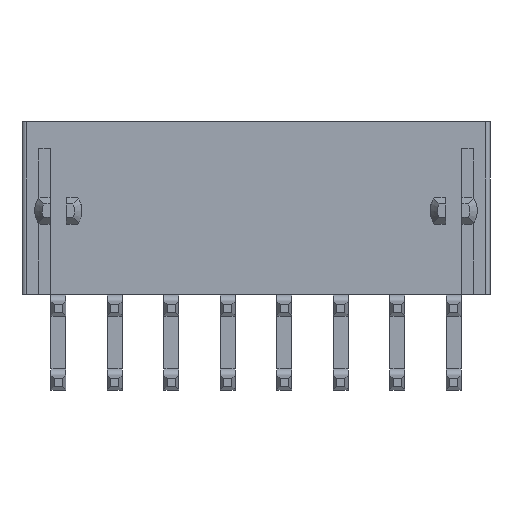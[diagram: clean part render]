
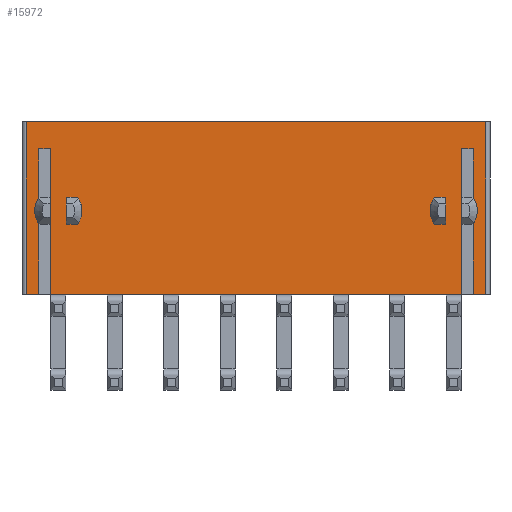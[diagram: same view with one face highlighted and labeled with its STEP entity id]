
A CAD part, front view. The second image highlights one B-rep face of the part: STEP entity #15972.
In plain terms, the highlighted planar face has unit normal (0, -1, 0).
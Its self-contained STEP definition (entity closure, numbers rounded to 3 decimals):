
#429=DIRECTION('',(-1.,0.,0.));
#430=VECTOR('',#429,0.95);
#431=CARTESIAN_POINT('',(37.969,3.966,-15.481));
#432=LINE('',#431,#430);
#461=DIRECTION('',(1.,0.,0.));
#462=VECTOR('',#461,0.95);
#463=CARTESIAN_POINT('',(3.769,3.966,-15.481));
#464=LINE('',#463,#462);
#2029=CARTESIAN_POINT('',(35.569,3.966,-9.281));
#2030=DIRECTION('',(0.,-1.,0.));
#2031=DIRECTION('',(-0.745,0.,0.667));
#2032=AXIS2_PLACEMENT_3D('',#2029,#2030,#2031);
#2034=DIRECTION('',(-1.,0.,0.));
#2035=VECTOR('',#2034,0.518);
#2036=CARTESIAN_POINT('',(34.969,3.966,-10.281));
#2037=LINE('',#2036,#2035);
#2038=DIRECTION('',(0.,0.,-1.));
#2039=VECTOR('',#2038,2.);
#2040=CARTESIAN_POINT('',(34.969,3.966,-8.281));
#2041=LINE('',#2040,#2039);
#2042=DIRECTION('',(1.,0.,0.));
#2043=VECTOR('',#2042,0.518);
#2044=CARTESIAN_POINT('',(34.451,3.966,-8.281));
#2045=LINE('',#2044,#2043);
#2046=CARTESIAN_POINT('',(6.169,3.966,-9.281));
#2047=DIRECTION('',(0.,-1.,0.));
#2048=DIRECTION('',(0.745,0.,-0.667));
#2049=AXIS2_PLACEMENT_3D('',#2046,#2047,#2048);
#2051=DIRECTION('',(-1.,0.,0.));
#2052=VECTOR('',#2051,0.518);
#2053=CARTESIAN_POINT('',(7.287,3.966,-8.281));
#2054=LINE('',#2053,#2052);
#2055=DIRECTION('',(0.,0.,-1.));
#2056=VECTOR('',#2055,2.);
#2057=CARTESIAN_POINT('',(6.769,3.966,-8.281));
#2058=LINE('',#2057,#2056);
#2059=DIRECTION('',(1.,0.,0.));
#2060=VECTOR('',#2059,0.518);
#2061=CARTESIAN_POINT('',(6.769,3.966,-10.281));
#2062=LINE('',#2061,#2060);
#2063=DIRECTION('',(1.,0.,0.));
#2064=VECTOR('',#2063,34.2);
#2065=CARTESIAN_POINT('',(3.769,3.966,-2.681));
#2066=LINE('',#2065,#2064);
#2067=DIRECTION('',(0.,0.,-1.));
#2068=VECTOR('',#2067,5.816);
#2069=CARTESIAN_POINT('',(37.019,3.966,-9.665));
#2070=LINE('',#2069,#2068);
#2071=CARTESIAN_POINT('',(35.569,3.966,-9.281));
#2072=DIRECTION('',(0.,-1.,0.));
#2073=DIRECTION('',(0.967,0.,-0.256));
#2074=AXIS2_PLACEMENT_3D('',#2071,#2072,#2073);
#2076=DIRECTION('',(0.,0.,-1.));
#2077=VECTOR('',#2076,4.216);
#2078=CARTESIAN_POINT('',(37.019,3.966,-4.681));
#2079=LINE('',#2078,#2077);
#2080=DIRECTION('',(1.,0.,0.));
#2081=VECTOR('',#2080,0.85);
#2082=CARTESIAN_POINT('',(36.169,3.966,-4.681));
#2083=LINE('',#2082,#2081);
#2084=DIRECTION('',(0.,0.,1.));
#2085=VECTOR('',#2084,10.8);
#2086=CARTESIAN_POINT('',(36.169,3.966,-15.481));
#2087=LINE('',#2086,#2085);
#2088=DIRECTION('',(-1.,0.,0.));
#2089=VECTOR('',#2088,30.6);
#2090=CARTESIAN_POINT('',(36.169,3.966,-15.481));
#2091=LINE('',#2090,#2089);
#2092=DIRECTION('',(0.,0.,1.));
#2093=VECTOR('',#2092,10.8);
#2094=CARTESIAN_POINT('',(5.569,3.966,-15.481));
#2095=LINE('',#2094,#2093);
#2096=DIRECTION('',(-1.,0.,0.));
#2097=VECTOR('',#2096,0.85);
#2098=CARTESIAN_POINT('',(5.569,3.966,-4.681));
#2099=LINE('',#2098,#2097);
#2100=DIRECTION('',(0.,0.,-1.));
#2101=VECTOR('',#2100,4.216);
#2102=CARTESIAN_POINT('',(4.719,3.966,-4.681));
#2103=LINE('',#2102,#2101);
#2104=CARTESIAN_POINT('',(6.169,3.966,-9.281));
#2105=DIRECTION('',(0.,-1.,0.));
#2106=DIRECTION('',(-0.967,0.,0.256));
#2107=AXIS2_PLACEMENT_3D('',#2104,#2105,#2106);
#2109=DIRECTION('',(0.,0.,-1.));
#2110=VECTOR('',#2109,5.816);
#2111=CARTESIAN_POINT('',(4.719,3.966,-9.665));
#2112=LINE('',#2111,#2110);
#2345=DIRECTION('',(0.,0.,-1.));
#2346=VECTOR('',#2345,12.8);
#2347=CARTESIAN_POINT('',(37.969,3.966,-2.681));
#2348=LINE('',#2347,#2346);
#2705=DIRECTION('',(0.,0.,-1.));
#2706=VECTOR('',#2705,12.8);
#2707=CARTESIAN_POINT('',(3.769,3.966,-2.681));
#2708=LINE('',#2707,#2706);
#11127=CARTESIAN_POINT('',(3.769,3.966,
-2.681));
#11129=VERTEX_POINT('',#11127);
#11185=CARTESIAN_POINT('',(3.769,3.966,
-15.481));
#11186=VERTEX_POINT('',#11185);
#11187=CARTESIAN_POINT('',(4.719,3.966,
-15.481));
#11188=VERTEX_POINT('',#11187);
#11193=CARTESIAN_POINT('',(5.569,3.966,
-15.481));
#11194=VERTEX_POINT('',#11193);
#11559=CARTESIAN_POINT('',(5.569,3.966,
-4.681));
#11560=VERTEX_POINT('',#11559);
#11561=CARTESIAN_POINT('',(4.719,3.966,
-4.681));
#11562=VERTEX_POINT('',#11561);
#11563=CARTESIAN_POINT('',(4.719,3.966,
-8.897));
#11564=VERTEX_POINT('',#11563);
#11565=CARTESIAN_POINT('',(4.719,3.966,
-9.665));
#11566=VERTEX_POINT('',#11565);
#11567=CARTESIAN_POINT('',(7.287,3.966,
-8.281));
#11568=CARTESIAN_POINT('',(6.769,3.966,
-8.281));
#11569=VERTEX_POINT('',#11567);
#11570=VERTEX_POINT('',#11568);
#11571=CARTESIAN_POINT('',(6.769,3.966,
-10.281));
#11572=VERTEX_POINT('',#11571);
#11573=CARTESIAN_POINT('',(7.287,3.966,
-10.281));
#11574=VERTEX_POINT('',#11573);
#12761=CARTESIAN_POINT('',(37.969,3.966,
-2.681));
#12763=VERTEX_POINT('',#12761);
#12819=CARTESIAN_POINT('',(37.969,3.966,
-15.481));
#12820=VERTEX_POINT('',#12819);
#12821=CARTESIAN_POINT('',(37.019,3.966,
-15.481));
#12822=VERTEX_POINT('',#12821);
#12827=CARTESIAN_POINT('',(36.169,3.966,
-15.481));
#12828=VERTEX_POINT('',#12827);
#13193=CARTESIAN_POINT('',(36.169,3.966,
-4.681));
#13194=VERTEX_POINT('',#13193);
#13195=CARTESIAN_POINT('',(37.019,3.966,
-4.681));
#13196=VERTEX_POINT('',#13195);
#13197=CARTESIAN_POINT('',(37.019,3.966,
-8.897));
#13198=VERTEX_POINT('',#13197);
#13199=CARTESIAN_POINT('',(37.019,3.966,
-9.665));
#13200=VERTEX_POINT('',#13199);
#13201=CARTESIAN_POINT('',(34.451,3.966,
-8.281));
#13202=CARTESIAN_POINT('',(34.969,3.966,
-8.281));
#13203=VERTEX_POINT('',#13201);
#13204=VERTEX_POINT('',#13202);
#13205=CARTESIAN_POINT('',(34.969,3.966,
-10.281));
#13206=VERTEX_POINT('',#13205);
#13207=CARTESIAN_POINT('',(34.451,3.966,
-10.281));
#13208=VERTEX_POINT('',#13207);
#15917=CARTESIAN_POINT('',(22.969,3.966,
-9.081));
#15918=DIRECTION('',(0.,1.,0.));
#15919=DIRECTION('',(1.,0.,0.));
#15920=AXIS2_PLACEMENT_3D('',#15917,#15918,#15919);
#15921=PLANE('',#15920);
#15922=ORIENTED_EDGE('',*,*,#14596,.T.);
#15924=ORIENTED_EDGE('',*,*,#15923,.T.);
#15925=ORIENTED_EDGE('',*,*,#14920,.T.);
#15927=ORIENTED_EDGE('',*,*,#15926,.F.);
#15929=ORIENTED_EDGE('',*,*,#15928,.T.);
#15931=ORIENTED_EDGE('',*,*,#15930,.F.);
#15933=ORIENTED_EDGE('',*,*,#15932,.F.);
#15935=ORIENTED_EDGE('',*,*,#15934,.F.);
#15936=ORIENTED_EDGE('',*,*,#14912,.T.);
#15938=ORIENTED_EDGE('',*,*,#15937,.T.);
#15940=ORIENTED_EDGE('',*,*,#15939,.T.);
#15942=ORIENTED_EDGE('',*,*,#15941,.T.);
#15944=ORIENTED_EDGE('',*,*,#15943,.T.);
#15946=ORIENTED_EDGE('',*,*,#15945,.T.);
#15947=ORIENTED_EDGE('',*,*,#14934,.F.);
#15949=ORIENTED_EDGE('',*,*,#15948,.F.);
#15950=EDGE_LOOP('',(#15922,#15924,#15925,#15927,#15929,#15931,#15933,#15935,
#15936,#15938,#15940,#15942,#15944,#15946,#15947,#15949));
#15951=FACE_OUTER_BOUND('',#15950,.F.);
#15953=ORIENTED_EDGE('',*,*,#15952,.T.);
#15955=ORIENTED_EDGE('',*,*,#15954,.T.);
#15957=ORIENTED_EDGE('',*,*,#15956,.T.);
#15959=ORIENTED_EDGE('',*,*,#15958,.T.);
#15960=EDGE_LOOP('',(#15953,#15955,#15957,#15959));
#15961=FACE_BOUND('',#15960,.F.);
#15963=ORIENTED_EDGE('',*,*,#15962,.T.);
#15965=ORIENTED_EDGE('',*,*,#15964,.F.);
#15967=ORIENTED_EDGE('',*,*,#15966,.F.);
#15969=ORIENTED_EDGE('',*,*,#15968,.F.);
#15970=EDGE_LOOP('',(#15963,#15965,#15967,#15969));
#15971=FACE_BOUND('',#15970,.F.);
#2033=CIRCLE('',#2032,1.5);
#2050=CIRCLE('',#2049,1.5);
#2075=CIRCLE('',#2074,1.5);
#2108=CIRCLE('',#2107,1.5);
#14596=EDGE_CURVE('',#11129,#12763,#2066,.T.);
#14912=EDGE_CURVE('',#12828,#11194,#2091,.T.);
#14920=EDGE_CURVE('',#12820,#12822,#432,.T.);
#14934=EDGE_CURVE('',#11186,#11188,#464,.T.);
#15923=EDGE_CURVE('',#12763,#12820,#2348,.T.);
#15926=EDGE_CURVE('',#13200,#12822,#2070,.T.);
#15928=EDGE_CURVE('',#13200,#13198,#2075,.T.);
#15930=EDGE_CURVE('',#13196,#13198,#2079,.T.);
#15932=EDGE_CURVE('',#13194,#13196,#2083,.T.);
#15934=EDGE_CURVE('',#12828,#13194,#2087,.T.);
#15937=EDGE_CURVE('',#11194,#11560,#2095,.T.);
#15939=EDGE_CURVE('',#11560,#11562,#2099,.T.);
#15941=EDGE_CURVE('',#11562,#11564,#2103,.T.);
#15943=EDGE_CURVE('',#11564,#11566,#2108,.T.);
#15945=EDGE_CURVE('',#11566,#11188,#2112,.T.);
#15948=EDGE_CURVE('',#11129,#11186,#2708,.T.);
#15952=EDGE_CURVE('',#11574,#11569,#2050,.T.);
#15954=EDGE_CURVE('',#11569,#11570,#2054,.T.);
#15956=EDGE_CURVE('',#11570,#11572,#2058,.T.);
#15958=EDGE_CURVE('',#11572,#11574,#2062,.T.);
#15962=EDGE_CURVE('',#13203,#13208,#2033,.T.);
#15964=EDGE_CURVE('',#13206,#13208,#2037,.T.);
#15966=EDGE_CURVE('',#13204,#13206,#2041,.T.);
#15968=EDGE_CURVE('',#13203,#13204,#2045,.T.);
#15972=ADVANCED_FACE('',(#15951,#15961,#15971),#15921,.F.);
